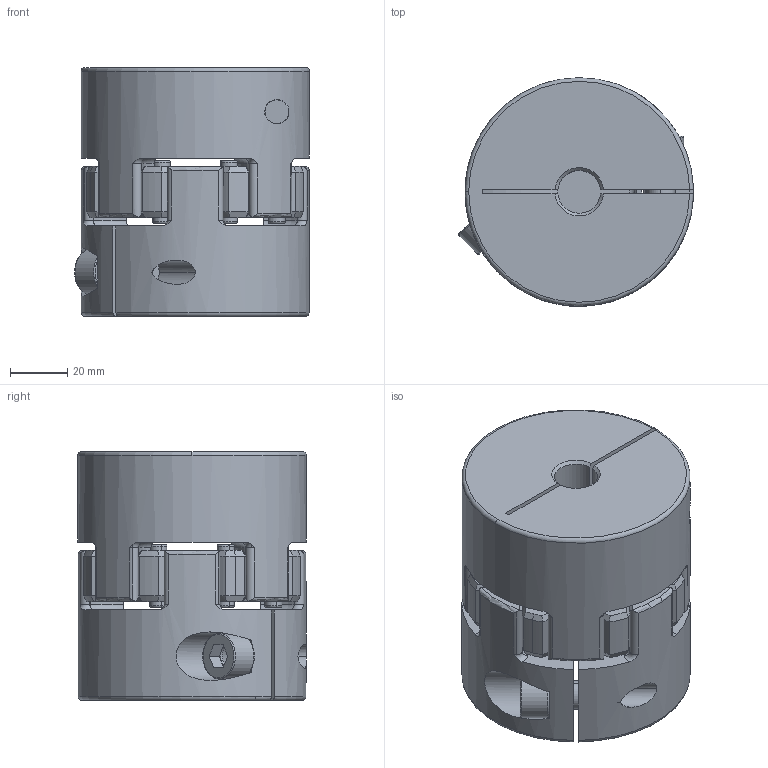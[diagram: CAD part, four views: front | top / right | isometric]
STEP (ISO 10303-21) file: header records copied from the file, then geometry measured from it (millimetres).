
FILE_DESCRIPTION (( 'STEP AP203' ), '1' );
FILE_NAME ('SJCM-80C-15X45_203.STEP', '2013-02-18T05:35:14', ( 'MYCOM' ), ( '' ), 'SwSTEP 2.0', 'SolidWorks 2012', '' );
FILE_SCHEMA (( 'CONFIG_CONTROL_DESIGN' ));
Length unit declared in the file: millimetre
Products named in the file (1): SJCM-80C-15X45_203
Bounding box: 82.24 x 80 x 87.2 mm (x, y, z)
Volume: 328344 mm3; surface area: 64617.8 mm2
Topology: 1 solids, 1 shells, 432 faces, 1145 edges, 700 vertices
Faces by surface type: cylinder 167, torus 96, cone 96, plane 73
Entity records: 14721 total; most frequent: CARTESIAN_POINT 3838, DIRECTION 2406, ORIENTED_EDGE 2282, EDGE_CURVE 1141, AXIS2_PLACEMENT_3D 1044, VERTEX_POINT 700, CIRCLE 611, EDGE_LOOP 453
